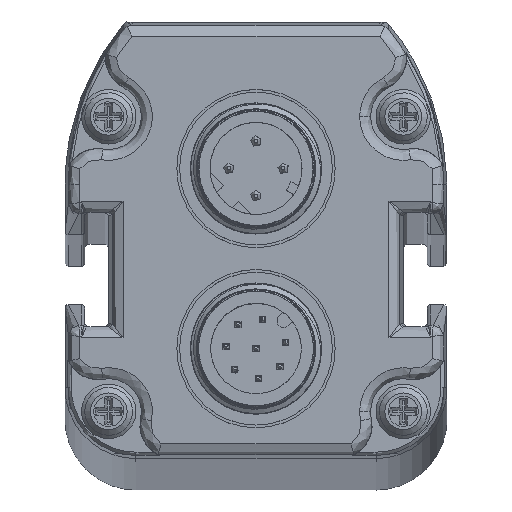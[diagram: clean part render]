
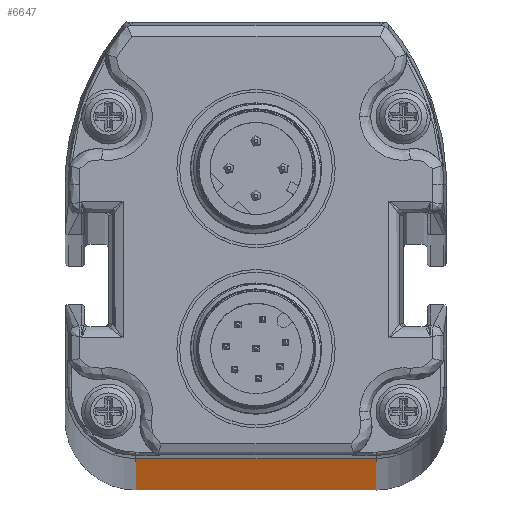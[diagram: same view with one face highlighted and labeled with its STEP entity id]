
A CAD part, top view. The second image highlights one B-rep face of the part: STEP entity #6647.
In plain terms, the highlighted planar face has unit normal (0, -1, 0).
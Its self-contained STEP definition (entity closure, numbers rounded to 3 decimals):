
#6647=ADVANCED_FACE('F5555',(#7855),#7510,.T.);
#7510=PLANE('',#20623);
#7855=FACE_OUTER_BOUND('',#8683,.T.);
#8683=EDGE_LOOP('',(#12115,#12116,#12117,#12118,#12119,#12120));
#9687=LINE('',#26722,#10384);
#9688=LINE('',#26734,#10385);
#10384=VECTOR('',#22232,1.);
#10385=VECTOR('',#22233,1.);
#12115=ORIENTED_EDGE('',*,*,#17885,.T.);
#12116=ORIENTED_EDGE('',*,*,#17884,.T.);
#12117=ORIENTED_EDGE('',*,*,#17887,.F.);
#12118=ORIENTED_EDGE('',*,*,#17888,.T.);
#12119=ORIENTED_EDGE('',*,*,#17889,.T.);
#12120=ORIENTED_EDGE('',*,*,#17890,.F.);
#16385=VERTEX_POINT('',#26709);
#16386=VERTEX_POINT('',#26714);
#16387=VERTEX_POINT('',#26719);
#16388=VERTEX_POINT('',#26723);
#16389=VERTEX_POINT('',#26728);
#16390=VERTEX_POINT('',#26733);
#17884=EDGE_CURVE('',#16386,#16385,#19972,.T.);
#17885=EDGE_CURVE('',#16387,#16386,#19973,.T.);
#17887=EDGE_CURVE('',#16388,#16385,#9687,.T.);
#17888=EDGE_CURVE('',#16388,#16389,#19974,.T.);
#17889=EDGE_CURVE('',#16389,#16390,#19975,.T.);
#17890=EDGE_CURVE('',#16387,#16390,#9688,.T.);
#19972=B_SPLINE_CURVE_WITH_KNOTS('',3,(#26710,#26711,#26712,#26713),
 .UNSPECIFIED.,.F.,.F.,(4,4),(0.,1.),.UNSPECIFIED.);
#19973=B_SPLINE_CURVE_WITH_KNOTS('',3,(#26715,#26716,#26717,#26718),
 .UNSPECIFIED.,.F.,.F.,(4,4),(0.,1.),.UNSPECIFIED.);
#19974=B_SPLINE_CURVE_WITH_KNOTS('',3,(#26724,#26725,#26726,#26727),
 .UNSPECIFIED.,.F.,.F.,(4,4),(0.,1.),.UNSPECIFIED.);
#19975=B_SPLINE_CURVE_WITH_KNOTS('',3,(#26729,#26730,#26731,#26732),
 .UNSPECIFIED.,.F.,.F.,(4,4),(0.,1.),.UNSPECIFIED.);
#20623=AXIS2_PLACEMENT_3D('',#26735,#22234,#22235);
#22232=DIRECTION('',(1.,0.,0.));
#22233=DIRECTION('',(-1.,0.,0.));
#22234=DIRECTION('',(0.,-1.,0.));
#22235=DIRECTION('',(1.,0.,0.));
#26709=CARTESIAN_POINT('',(93.013,-2.493,1674.168));
#26710=CARTESIAN_POINT('',(93.013,-2.493,1564.618));
#26711=CARTESIAN_POINT('',(93.013,-2.493,1601.135));
#26712=CARTESIAN_POINT('',(93.013,-2.493,1637.652));
#26713=CARTESIAN_POINT('',(93.013,-2.493,1674.168));
#26714=CARTESIAN_POINT('',(93.013,-2.493,1564.618));
#26715=CARTESIAN_POINT('',(93.013,-2.493,24.068));
#26716=CARTESIAN_POINT('',(93.013,-2.493,537.585));
#26717=CARTESIAN_POINT('',(93.013,-2.493,1051.102));
#26718=CARTESIAN_POINT('',(93.013,-2.493,1564.618));
#26719=CARTESIAN_POINT('',(93.013,-2.493,24.068));
#26722=CARTESIAN_POINT('',(82.013,-2.493,1674.168));
#26723=CARTESIAN_POINT('',(71.013,-2.493,1674.168));
#26724=CARTESIAN_POINT('',(71.013,-2.493,1674.168));
#26725=CARTESIAN_POINT('',(71.013,-2.493,1637.652));
#26726=CARTESIAN_POINT('',(71.013,-2.493,1601.135));
#26727=CARTESIAN_POINT('',(71.013,-2.493,1564.618));
#26728=CARTESIAN_POINT('',(71.013,-2.493,1564.618));
#26729=CARTESIAN_POINT('',(71.013,-2.493,1564.618));
#26730=CARTESIAN_POINT('',(71.013,-2.493,1051.102));
#26731=CARTESIAN_POINT('',(71.013,-2.493,537.585));
#26732=CARTESIAN_POINT('',(71.013,-2.493,24.068));
#26733=CARTESIAN_POINT('',(71.013,-2.493,24.068));
#26734=CARTESIAN_POINT('',(64.513,-2.493,24.068));
#26735=CARTESIAN_POINT('',(64.513,-2.493,-1005.332));
